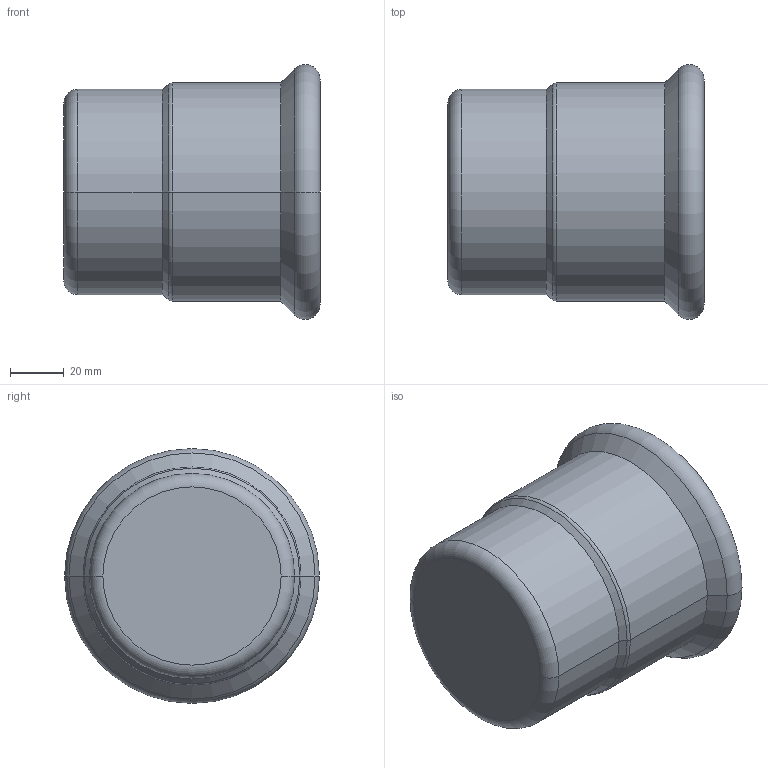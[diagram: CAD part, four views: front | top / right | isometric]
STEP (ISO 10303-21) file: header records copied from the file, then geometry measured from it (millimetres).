
FILE_DESCRIPTION(('OneSpaceDesigner STEP Export'),'2;1');
FILE_NAME('R2729 76.stp','2010-06-10T13:39:34',(''),(''),'OneSpace Designer STEP processor for AP214 (Solid Model)','OneSpace Modeling 15.00A 14-Mar-2007 (C) CoCreate Software GmbH','');
FILE_SCHEMA(('AUTOMOTIVE_DESIGN { 1 0 10303 214 1 1 1 1 }'));
Length unit declared in the file: millimetre
Products named in the file (2): R2729_76
Assembly tree (1 placements, depth 2):
  R2729_76
    R2729_76
Bounding box: 95 x 94.48 x 94.48 mm (x, y, z)
Volume: 83051.1 mm3; surface area: 60588.7 mm2
Topology: 1 solids, 1 shells, 61 faces, 148 edges, 95 vertices
Faces by surface type: plane 32, cylinder 19, torus 6, cone 4
Entity records: 1595 total; most frequent: ORIENTED_EDGE 296, CARTESIAN_POINT 255, DIRECTION 231, EDGE_CURVE 148, VERTEX_POINT 95, VECTOR 89, LINE 89, EDGE_LOOP 73
